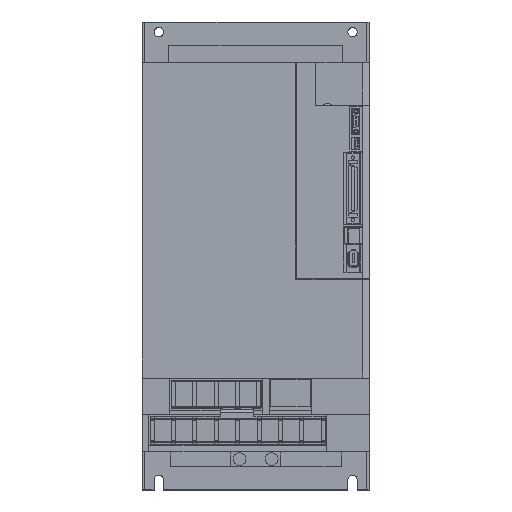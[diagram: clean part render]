
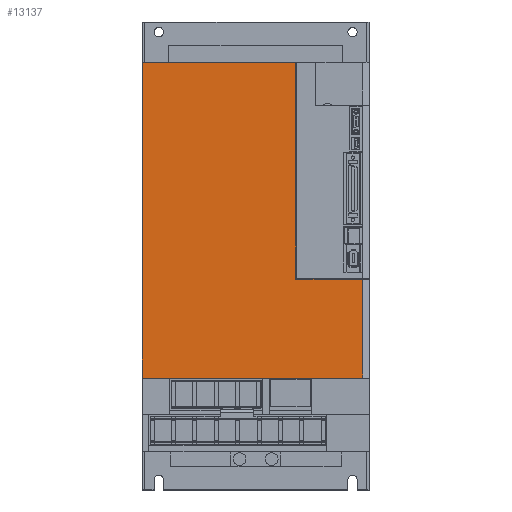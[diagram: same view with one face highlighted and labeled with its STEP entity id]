
A CAD part, top view. The second image highlights one B-rep face of the part: STEP entity #13137.
In plain terms, the highlighted planar face has unit normal (0, 0, 1).
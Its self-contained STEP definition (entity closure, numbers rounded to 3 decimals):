
#12941 = EDGE_CURVE ( 'NONE', #12942, #12943, #46663, .T. ) ;
#12942 = VERTEX_POINT ( 'NONE', #46655 ) ;
#12943 = VERTEX_POINT ( 'NONE', #46654 ) ;
#13122 = ORIENTED_EDGE ( 'NONE', *, *, #12941, .T. ) ;
#13123 = ORIENTED_EDGE ( 'NONE', *, *, #13151, .T. ) ;
#13124 = ORIENTED_EDGE ( 'NONE', *, *, #13125, .T. ) ;
#13125 = EDGE_CURVE ( 'NONE', #13149, #13142, #46995, .T. ) ;
#13137 = ADVANCED_FACE ( 'NONE', ( #46976 ), #46975, .T. ) ;
#13138 = EDGE_LOOP ( 'NONE', ( #13139, #13200, #13203, #13122, #13123, #13124 ) ) ;
#13139 = ORIENTED_EDGE ( 'NONE', *, *, #13140, .F. ) ;
#13140 = EDGE_CURVE ( 'NONE', #13141, #13142, #46970, .T. ) ;
#13141 = VERTEX_POINT ( 'NONE', #46964 ) ;
#13142 = VERTEX_POINT ( 'NONE', #46966 ) ;
#13149 = VERTEX_POINT ( 'NONE', #47018 ) ;
#13151 = EDGE_CURVE ( 'NONE', #12943, #13149, #47017, .T. ) ;
#13200 = ORIENTED_EDGE ( 'NONE', *, *, #13201, .F. ) ;
#13201 = EDGE_CURVE ( 'NONE', #13202, #13141, #47071, .T. ) ;
#13202 = VERTEX_POINT ( 'NONE', #47067 ) ;
#13203 = ORIENTED_EDGE ( 'NONE', *, *, #13204, .T. ) ;
#13204 = EDGE_CURVE ( 'NONE', #13202, #12942, #47065, .T. ) ;
#46654 = CARTESIAN_POINT ( 'NONE',  ( -12.5, -23., 139. ) ) ;
#46655 = CARTESIAN_POINT ( 'NONE',  ( 102.5, -23., 139. ) ) ;
#46656 = DIRECTION ( 'NONE',  ( -1., 0., 0. ) ) ;
#46657 = VECTOR ( 'NONE', #46656, 1000. ) ;
#46658 = CARTESIAN_POINT ( 'NONE',  ( 157.5, -23., 139. ) ) ;
#46663 = LINE ( 'NONE', #46658, #46657 ) ;
#46808 = VECTOR ( 'NONE', #47127, 1000. ) ;
#46964 = CARTESIAN_POINT ( 'NONE',  ( 152.5, -185., 139. ) ) ;
#46966 = CARTESIAN_POINT ( 'NONE',  ( 152.5, -259., 139. ) ) ;
#46967 = DIRECTION ( 'NONE',  ( 0., -1., 0. ) ) ;
#46968 = VECTOR ( 'NONE', #46967, 1000. ) ;
#46969 = CARTESIAN_POINT ( 'NONE',  ( 152.5, -179.415, 139. ) ) ;
#46970 = LINE ( 'NONE', #46969, #46968 ) ;
#46971 = DIRECTION ( 'NONE',  ( 1., 0., 0. ) ) ;
#46972 = DIRECTION ( 'NONE',  ( 0., 0., 1. ) ) ;
#46973 = CARTESIAN_POINT ( 'NONE',  ( 0., 0., 139. ) ) ;
#46974 = AXIS2_PLACEMENT_3D ( 'NONE', #46973, #46972, #46971 ) ;
#46975 = PLANE ( 'NONE',  #46974 ) ;
#46976 = FACE_OUTER_BOUND ( 'NONE', #13138, .T. ) ;
#46992 = DIRECTION ( 'NONE',  ( 1., 0., 0. ) ) ;
#46993 = VECTOR ( 'NONE', #46992, 1000. ) ;
#46994 = CARTESIAN_POINT ( 'NONE',  ( -12.5, -259., 139. ) ) ;
#46995 = LINE ( 'NONE', #46994, #46993 ) ;
#47014 = DIRECTION ( 'NONE',  ( 0., -1., 0. ) ) ;
#47015 = VECTOR ( 'NONE', #47014, 1000. ) ;
#47016 = CARTESIAN_POINT ( 'NONE',  ( -12.5, -23., 139. ) ) ;
#47017 = LINE ( 'NONE', #47016, #47015 ) ;
#47018 = CARTESIAN_POINT ( 'NONE',  ( -12.5, -259., 139. ) ) ;
#47064 = CARTESIAN_POINT ( 'NONE',  ( 102.5, -24., 139. ) ) ;
#47065 = LINE ( 'NONE', #47064, #46808 ) ;
#47067 = CARTESIAN_POINT ( 'NONE',  ( 102.5, -185., 139. ) ) ;
#47068 = DIRECTION ( 'NONE',  ( 1., 0., 0. ) ) ;
#47069 = VECTOR ( 'NONE', #47068, 1000. ) ;
#47070 = CARTESIAN_POINT ( 'NONE',  ( 156.5, -185., 139. ) ) ;
#47071 = LINE ( 'NONE', #47070, #47069 ) ;
#47127 = DIRECTION ( 'NONE',  ( 0., 1., 0. ) ) ;
